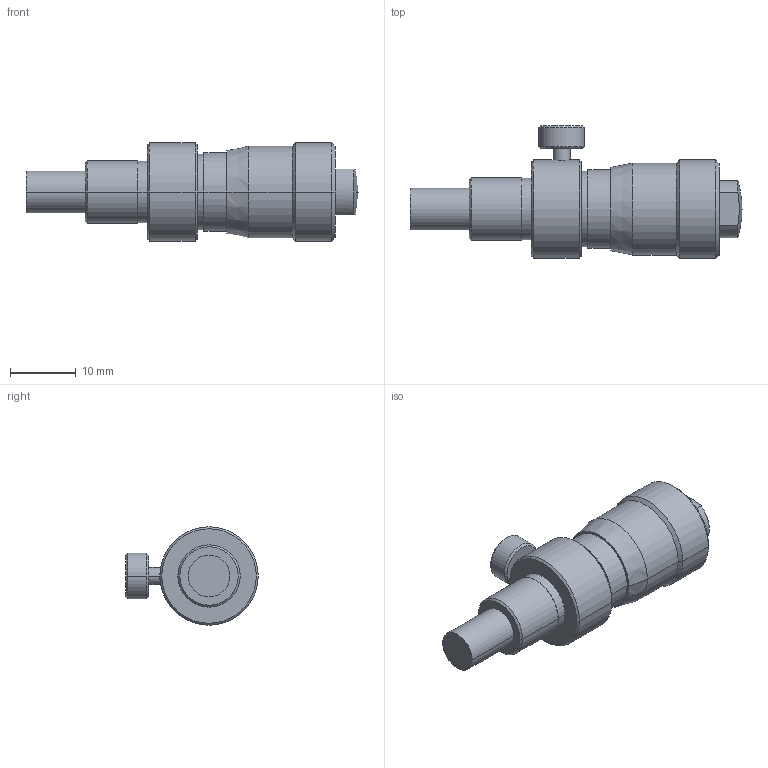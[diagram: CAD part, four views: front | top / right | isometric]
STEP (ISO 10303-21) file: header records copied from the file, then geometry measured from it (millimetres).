
FILE_DESCRIPTION(('Creo Elements/Direct Modeling STEP Export'),'2;1');
FILE_NAME('148-316-10_MHC1-6_5CLCA.stp','2022-09-22T16:28:58',(''),(''),'Creo Elements/Direct Modeling STEP processor for AP214 (Solid Model)','Creo Elements/Direct Modeling 18.1H 24-Oct-2015 (C) Parametric Technology GmbH','');
FILE_SCHEMA(('AUTOMOTIVE_DESIGN { 1 0 10303 214 1 1 1 1 }'));
Length unit declared in the file: millimetre
Products named in the file (1): 148-316_MHC1-6_5CLC_PRT.PRT
Bounding box: 50.6 x 20.2 x 15 mm (x, y, z)
Volume: 5737 mm3; surface area: 2383.5 mm2
Topology: 1 solids, 1 shells, 52 faces, 110 edges, 66 vertices
Faces by surface type: cylinder 22, cone 16, plane 12, sphere 2
Entity records: 1272 total; most frequent: CARTESIAN_POINT 224, ORIENTED_EDGE 216, DIRECTION 208, EDGE_CURVE 108, AXIS2_PLACEMENT_3D 83, VERTEX_POINT 66, EDGE_LOOP 60, FACE_OUTER_BOUND 52
